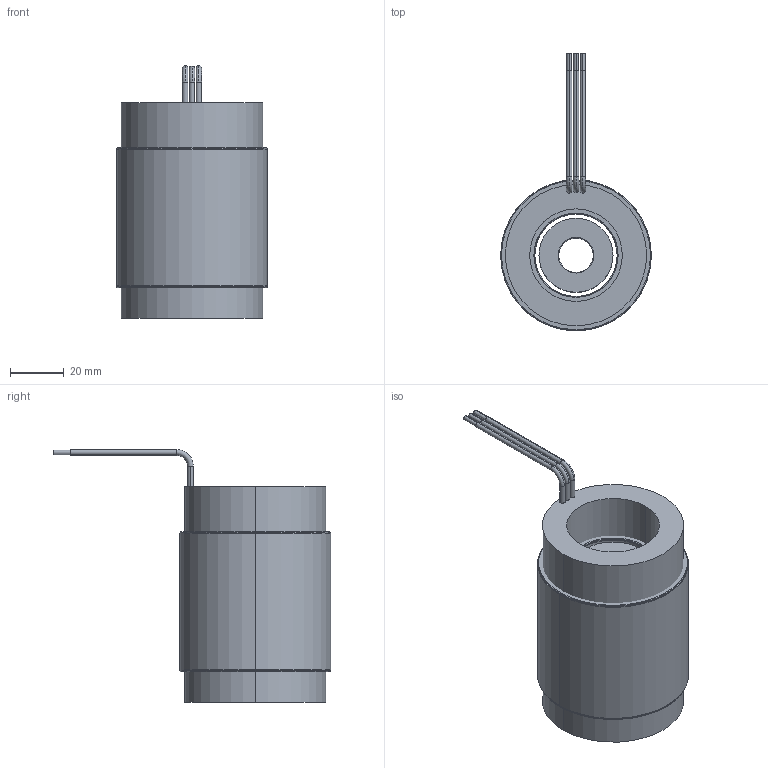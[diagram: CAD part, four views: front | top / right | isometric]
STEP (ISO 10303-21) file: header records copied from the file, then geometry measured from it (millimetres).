
FILE_DESCRIPTION (( 'STEP AP214' ), '1' );
FILE_NAME ('6100252-04.STEP', '2019-11-11T16:57:22', ( '' ), ( '' ), 'SwSTEP 2.0', 'SolidWorks 2016', '' );
FILE_SCHEMA (( 'AUTOMOTIVE_DESIGN' ));
Length unit declared in the file: millimetre
Products named in the file (9): 4400027-01; 4450150-XX_4450150-02; 4500513-XX_4500513-04; 6100252-04; 4600087-00; 4250337-XX_4250337-02; 4150141-XX_4150141-02; COMP4500513-XX(COIL)_COMP4500513-04(COIL)
Assembly tree (10 placements, depth 4):
  6100252-04
    4500513-XX_4500513-04
      4450150-XX_4450150-02
        4450150-XX_4450150-02
        4400027-01  x2
        4600087-00  x2
      COMP4500513-XX(COIL)_COMP4500513-04(COIL)
    4250337-XX_4250337-02
      4150141-XX_4150141-02
Bounding box: 55.85 x 102.72 x 93.6 mm (x, y, z)
Volume: 211275.3 mm3; surface area: 63739.8 mm2
Topology: 7 solids, 7 shells, 84 faces, 174 edges, 110 vertices
Faces by surface type: cylinder 46, plane 20, torus 14, cone 4
Entity records: 2210 total; most frequent: DIRECTION 410, CARTESIAN_POINT 316, ORIENTED_EDGE 284, AXIS2_PLACEMENT_3D 184, EDGE_CURVE 142, CIRCLE 100, VERTEX_POINT 90, EDGE_LOOP 84
